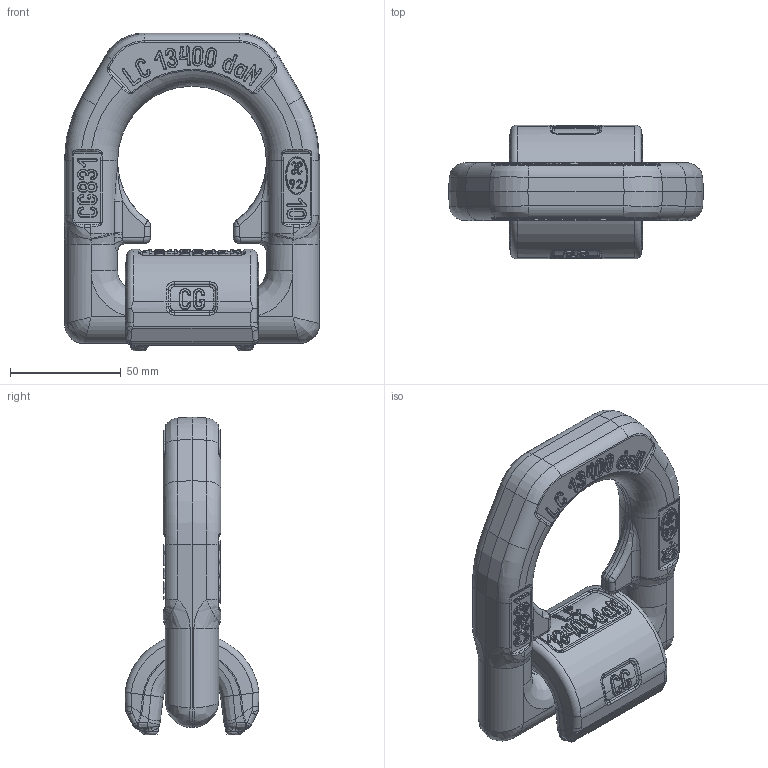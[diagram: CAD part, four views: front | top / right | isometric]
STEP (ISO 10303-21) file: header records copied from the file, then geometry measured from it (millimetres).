
FILE_DESCRIPTION(/* description */ (''),/* implementation_level */ '2;1');
FILE_NAME(/* name */ 'C831X134.stp',/* time_stamp */ '2013-06-05T16:16:10+02:00',/* author */ (''),/* organization */ (''),/* preprocessor_version */ 'ST-DEVELOPER v11',/* originating_system */ 'SIEMENS PLM Software NX 7.5',/* authorisation */ '');
FILE_SCHEMA (('CONFIG_CONTROL_DESIGN'));
Length unit declared in the file: millimetre
Products named in the file (1): ugii64F4wp9f
Bounding box: 115 x 60.31 x 143.29 mm (x, y, z)
Volume: 277387.4 mm3; surface area: 48985.5 mm2
Topology: 2 solids, 2 shells, 1761 faces, 4152 edges, 2450 vertices
Faces by surface type: cylinder 553, bspline 457, plane 428, torus 212, extrusion 91, cone 16, sphere 4
Entity records: 70544 total; most frequent: CARTESIAN_POINT 32526, ORIENTED_EDGE 8260, DIRECTION 7565, EDGE_CURVE 4130, AXIS2_PLACEMENT_3D 2965, VERTEX_POINT 2445, EDGE_LOOP 1835, ADVANCED_FACE 1761
